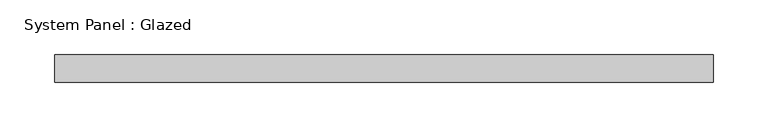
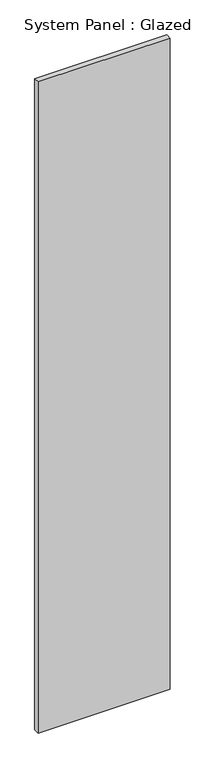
"""IFC4 building model written with IfcOpenShell, lengths in millimetres: plate geometry, System Panel : Glazed."""

from ifc_helpers import new_model, si_unit, origin, origin_with_axes, place, context, project, spatial, polyline, outline, extrude, source, transform, mapped, element, save


def system_panel_glazed_f9f902e6(model_context):
    return source(origin(), model_context, "Body", "SweptSolid", [
        extrude(outline(polyline([(300.0, -49.5), (-300.0, -49.5), (-300.0, -24.5), (300.0, -24.5), (300.0, -49.5)])), origin_with_axes(), (0.0, 0.0, 1.0), 3125.0),
    ])


if __name__ == "__main__":
    model = new_model("IFC4")
    model_context = context("Model", 3, world=origin())
    ifc_project = project(units=[si_unit("LENGTHUNIT", "METRE", prefix="MILLI")], contexts=[model_context])
    site = spatial("IfcSite", under=ifc_project)
    building = spatial("IfcBuilding", under=site)
    placement = place(None, origin())
    system_panel_glazed_shape = system_panel_glazed_f9f902e6(model_context)
    element("IfcPlate", 1, ObjectType="System Panel : Glazed", at=placement, inside=building, context=model_context, shape_type="MappedRepresentation", body=[
        mapped(system_panel_glazed_shape, transform((0.0, 0.0, 0.0), x_axis=(1.0, 0.0, 0.0), y_axis=(0.0, 1.0, 0.0), z_axis=(0.0, 0.0, 1.0))),
    ])
    save(model, "model.ifc")
